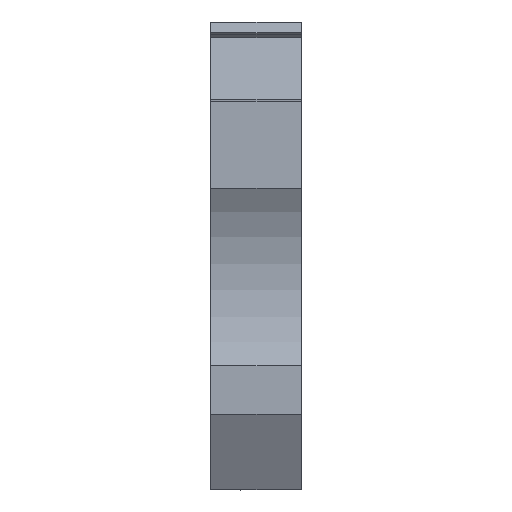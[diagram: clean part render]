
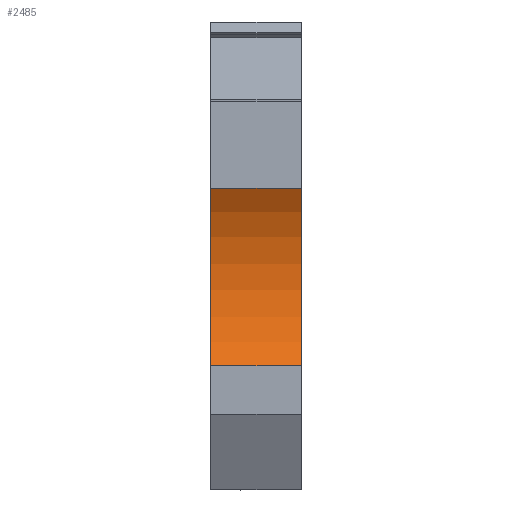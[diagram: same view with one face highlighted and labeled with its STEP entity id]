
A CAD part, left-side view. The second image highlights one B-rep face of the part: STEP entity #2485.
In plain terms, the highlighted cylindrical face has radius 15 mm (diameter 30 mm), a partial arc.
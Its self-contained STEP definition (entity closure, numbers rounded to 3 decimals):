
#540=CARTESIAN_POINT('',(-59.547,-6.65,37.858));
#541=VERTEX_POINT('',#540);
#548=CARTESIAN_POINT('',(-59.547,-6.65,21.858));
#549=VERTEX_POINT('',#548);
#550=CARTESIAN_POINT('',(-72.236,-6.65,29.858));
#551=DIRECTION('',(0.,1.,0.));
#552=DIRECTION('',(-1.,0.,0.));
#553=AXIS2_PLACEMENT_3D('',#550,#551,#552);
#554=CIRCLE('',#553,15.);
#555=EDGE_CURVE('',#541,#549,#554,.T.);
#1084=CARTESIAN_POINT('',(-59.547,1.5,21.858));
#1085=VERTEX_POINT('',#1084);
#1092=CARTESIAN_POINT('',(-59.547,1.5,37.858));
#1093=VERTEX_POINT('',#1092);
#1094=CARTESIAN_POINT('',(-72.236,1.5,29.858));
#1095=DIRECTION('',(0.,1.,0.));
#1096=DIRECTION('',(-1.,0.,0.));
#1097=AXIS2_PLACEMENT_3D('',#1094,#1095,#1096);
#1098=CIRCLE('',#1097,15.);
#1099=EDGE_CURVE('',#1093,#1085,#1098,.T.);
#2457=CARTESIAN_POINT('',(-59.547,-6.65,37.858));
#2458=DIRECTION('',(0.,1.,0.));
#2459=VECTOR('',#2458,8.15);
#2460=LINE('',#2457,#2459);
#2461=EDGE_CURVE('',#541,#1093,#2460,.T.);
#2469=CARTESIAN_POINT('',(-72.236,1.5,29.858));
#2470=DIRECTION('',(0.,1.,0.));
#2471=DIRECTION('',(-1.,0.,0.));
#2472=AXIS2_PLACEMENT_3D('',#2469,#2470,#2471);
#2473=CYLINDRICAL_SURFACE('',#2472,15.);
#2474=CARTESIAN_POINT('',(-59.547,-6.65,21.858));
#2475=DIRECTION('',(0.,1.,-0.));
#2476=VECTOR('',#2475,8.15);
#2477=LINE('',#2474,#2476);
#2478=EDGE_CURVE('',#549,#1085,#2477,.T.);
#2479=ORIENTED_EDGE('',*,*,#2478,.F.);
#2480=ORIENTED_EDGE('',*,*,#555,.F.);
#2481=ORIENTED_EDGE('',*,*,#2461,.T.);
#2482=ORIENTED_EDGE('',*,*,#1099,.T.);
#2483=EDGE_LOOP('',(#2479,#2480,#2481,#2482));
#2484=FACE_BOUND('',#2483,.T.);
#2485=ADVANCED_FACE('',(#2484),#2473,.F.);
